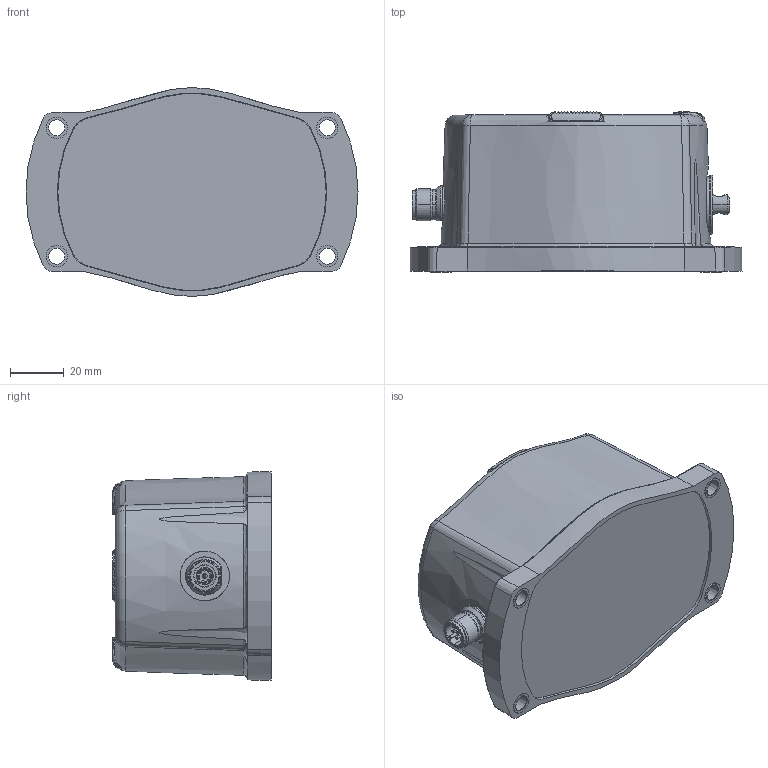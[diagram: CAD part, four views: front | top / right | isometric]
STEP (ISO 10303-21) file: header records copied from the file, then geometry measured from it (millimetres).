
FILE_DESCRIPTION((''),'2;1');
FILE_NAME('440E-Z21SS_ASM','2015-11-17T',('altsang'),('Rockwell Automation'),'PRO/ENGINEER BY PARAMETRIC TECHNOLOGY CORPORATION, 2012480','PRO/ENGINEER BY PARAMETRIC TECHNOLOGY CORPORATION, 2012480','');
FILE_SCHEMA(('CONFIG_CONTROL_DESIGN'));
Products named in the file (14): 10001622285; 10001834620; SSRESETAPEMAV22MM; 10000043331; 10000043067; 10001872425; FACESEALQD_ASM; 10001872417; F-26886; O-RING; SUBSTRATE3_1THINHOLES; 10001872462; 10001892313; 440E-Z21SS_ASM
Assembly tree (22 placements, depth 3):
  440E-Z21SS_ASM
    10001622285
    10001834620  x3
    SSRESETAPEMAV22MM
    FACESEALQD_ASM
      10000043331
      10000043067  x8
      10001872425
    10001872417
    F-26886
    O-RING
    SUBSTRATE3_1THINHOLES
    10001872462
    10001892313
Bounding box: 124 x 59.74 x 78 mm (x, y, z)
Volume: 113030.9 mm3; surface area: 73588.8 mm2
Topology: 20 solids, 20 shells, 1941 faces, 4718 edges, 2866 vertices
Faces by surface type: cylinder 656, plane 614, bspline 311, cone 235, torus 69, sphere 50, extrusion 6
Entity records: 49270 total; most frequent: CARTESIAN_POINT 22496, ORIENTED_EDGE 5792, DIRECTION 5163, EDGE_CURVE 2896, AXIS2_PLACEMENT_3D 2000, VERTEX_POINT 1801, EDGE_LOOP 1283, FACE_OUTER_BOUND 1168
